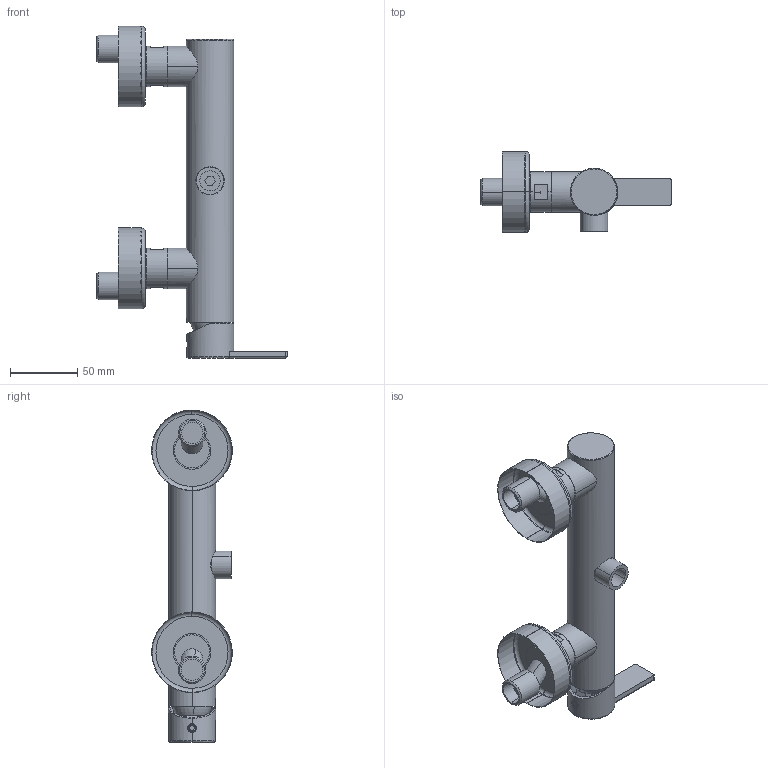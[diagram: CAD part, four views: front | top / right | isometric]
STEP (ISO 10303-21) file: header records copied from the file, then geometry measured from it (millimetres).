
FILE_DESCRIPTION (( 'STEP AP203' ), '1' );
FILE_NAME ('MAC23.STEP', '2016-11-10T09:17:33', ( '' ), ( '' ), 'SwSTEP 2.0', 'SolidWorks 2014', '' );
FILE_SCHEMA (( 'CONFIG_CONTROL_DESIGN' ));
Length unit declared in the file: millimetre
Products named in the file (18): OR142ACS; EU0119_1; TAPPHITO01; CONFROS012; MAC23; RONDG2417; GAL319654; GRANO M5x6; ECCENTRICI; EU0665_0; GAL300279; EU0360_1; GAL319656; EU0120_0; OR152ACS; GAL106344; CARTNUB003
Assembly tree (22 placements, depth 3):
  MAC23
    GAL319656
    GAL319654  x2
    GAL106344  x2
    EU0665_0  x2
    GAL300279
    OR152ACS
    EU0119_1
    EU0120_0
    EU0360_1
    TAPPHITO01
    GRANO M5x6
    CONFROS012  x2
      CONFROS012
      ECCENTRICI
      RONDG2417
    CARTNUB003
    OR142ACS  x2
Bounding box: 141.2 x 60 x 246.6 mm (x, y, z)
Volume: 272497.6 mm3; surface area: 113572.9 mm2
Topology: 26 solids, 26 shells, 641 faces, 1446 edges, 895 vertices
Faces by surface type: cylinder 252, plane 228, cone 81, torus 68, bspline 10, sphere 2
Entity records: 18078 total; most frequent: CARTESIAN_POINT 3896, DIRECTION 2760, ORIENTED_EDGE 2376, EDGE_CURVE 1188, AXIS2_PLACEMENT_3D 1121, VERTEX_POINT 741, EDGE_LOOP 591, CIRCLE 578
